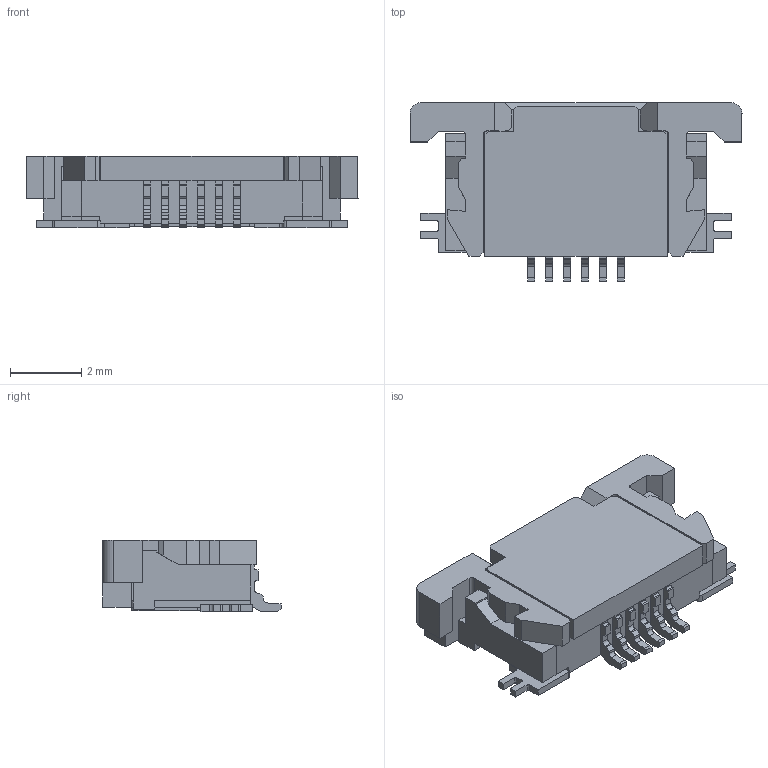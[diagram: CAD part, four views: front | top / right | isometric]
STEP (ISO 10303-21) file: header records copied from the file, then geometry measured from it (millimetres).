
FILE_DESCRIPTION (( 'STEP AP214' ), '1' );
FILE_NAME ('006212006340.STEP', '2023-03-30T01:01:05', ( '' ), ( '' ), 'SwSTEP 2.0', 'SolidWorks 2021', '' );
FILE_SCHEMA (( 'AUTOMOTIVE_DESIGN' ));
Length unit declared in the file: millimetre
Products named in the file (1): 006212006340
Bounding box: 9.3 x 5 x 2 mm (x, y, z)
Volume: 55.1 mm3; surface area: 176.5 mm2
Topology: 1 solids, 1 shells, 301 faces, 886 edges, 588 vertices
Faces by surface type: plane 257, cylinder 44
Entity records: 9924 total; most frequent: CARTESIAN_POINT 1776, ORIENTED_EDGE 1772, DIRECTION 1584, EDGE_CURVE 886, LINE 792, VECTOR 792, VERTEX_POINT 588, AXIS2_PLACEMENT_3D 396
